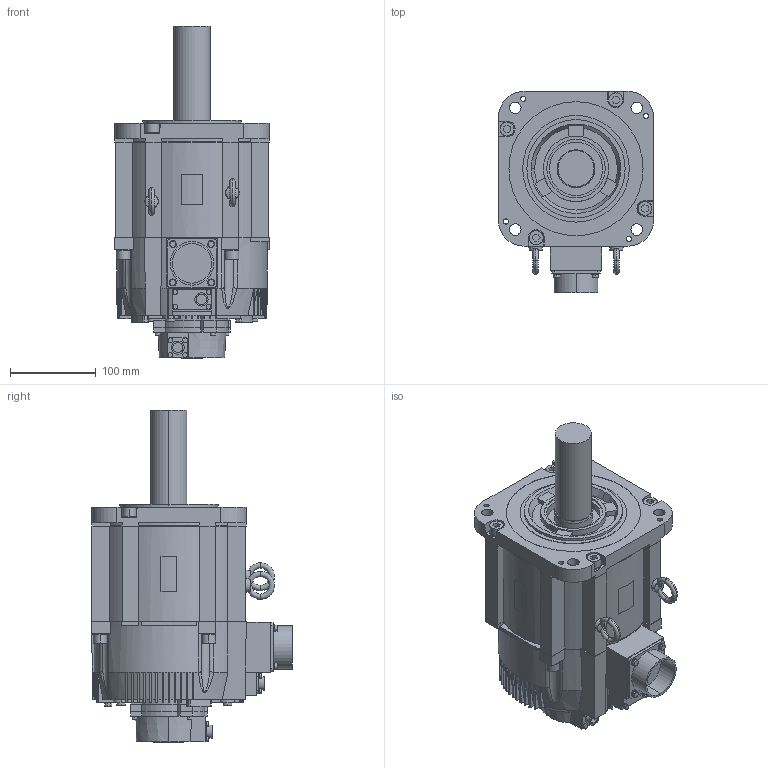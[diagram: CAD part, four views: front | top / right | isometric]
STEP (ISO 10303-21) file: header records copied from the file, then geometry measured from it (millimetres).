
FILE_DESCRIPTION (( 'STEP AP203' ), '1' );
FILE_NAME ('sgm7g_55a6a2c.STEP', '2016-11-12T04:54:44', ( '匠エンジニアリング山之内' ), ( 'TAKUMI-Engniaring' ), 'SwSTEP 2.0', 'SolidWorks 2006303', '' );
FILE_SCHEMA (( 'CONFIG_CONTROL_DESIGN' ));
Length unit declared in the file: millimetre
Products named in the file (3): sgm7g_55a6a2c_base; sgm7g_55a6a2c_eyebolt; sgm7g_55a6a2c
Assembly tree (3 placements, depth 2):
  sgm7g_55a6a2c
    sgm7g_55a6a2c_base
    sgm7g_55a6a2c_eyebolt  x2
Bounding box: 180 x 233.75 x 386.1 mm (x, y, z)
Volume: 6362142.6 mm3; surface area: 318962.2 mm2
Topology: 3 solids, 3 shells, 1060 faces, 2727 edges, 1775 vertices
Faces by surface type: plane 643, cylinder 307, cone 98, torus 8, bspline 4
Entity records: 33814 total; most frequent: CARTESIAN_POINT 7444, DIRECTION 5516, ORIENTED_EDGE 5400, EDGE_CURVE 2700, AXIS2_PLACEMENT_3D 1972, VERTEX_POINT 1759, LINE 1572, VECTOR 1572
